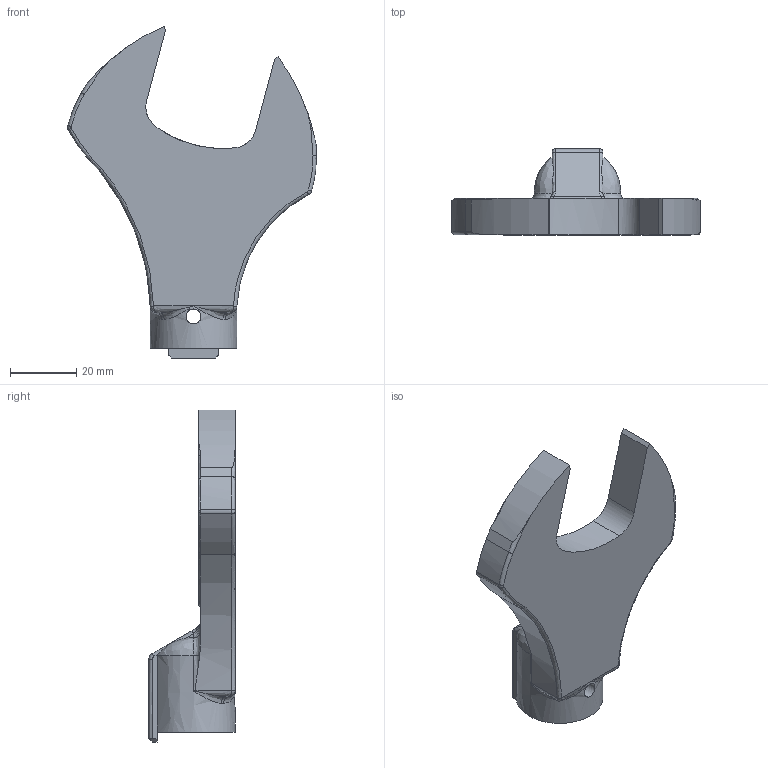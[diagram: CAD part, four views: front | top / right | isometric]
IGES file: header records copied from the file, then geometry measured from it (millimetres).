
Global section: file name: SH19DX34; native system: Autodesk Inventor 2016; preprocessor: unknown; author: Q600; date: 20151029.175441; units: millimetre
Bounding box: 74.88 x 26 x 99.94 mm (x, y, z)
Volume: 39409.1 mm3; surface area: 12790.6 mm2
Topology: 1 solids, 1 shells, 100 faces, 276 edges, 169 vertices
Faces by surface type: bspline 100
